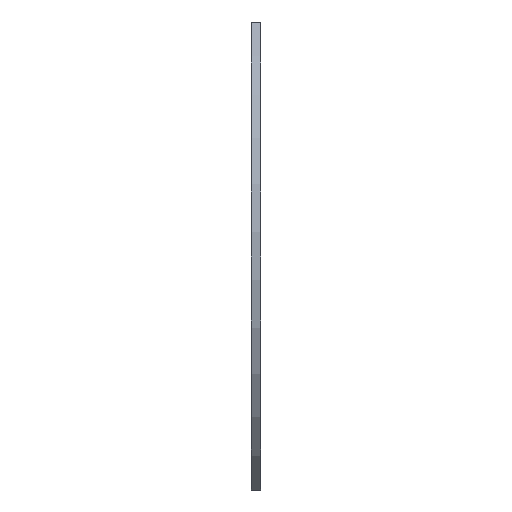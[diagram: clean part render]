
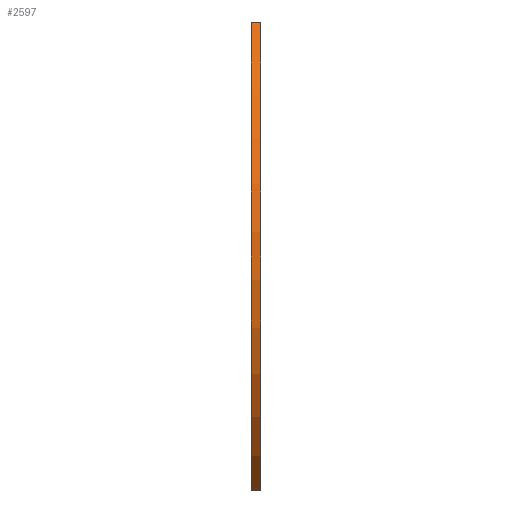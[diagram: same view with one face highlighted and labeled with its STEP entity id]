
A CAD part, left-side view. The second image highlights one B-rep face of the part: STEP entity #2597.
In plain terms, the highlighted cylindrical face has radius 100 mm (diameter 200 mm), a partial arc.
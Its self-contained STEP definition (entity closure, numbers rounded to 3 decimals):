
#208 = VERTEX_POINT('',#209);
#209 = CARTESIAN_POINT('',(-63.804,0.,-77.));
#215 = EDGE_CURVE('',#216,#208,#218,.T.);
#216 = VERTEX_POINT('',#217);
#217 = CARTESIAN_POINT('',(-63.804,0.,77.));
#218 = CIRCLE('',#219,100.);
#219 = AXIS2_PLACEMENT_3D('',#220,#221,#222);
#220 = CARTESIAN_POINT('',(0.,0.,0.));
#221 = DIRECTION('',(0.,-1.,0.));
#222 = DIRECTION('',(1.,0.,0.));
#1260 = VERTEX_POINT('',#1261);
#1261 = CARTESIAN_POINT('',(-63.804,-3.,-77.));
#1267 = EDGE_CURVE('',#1268,#1260,#1270,.T.);
#1268 = VERTEX_POINT('',#1269);
#1269 = CARTESIAN_POINT('',(-63.804,-3.,77.));
#1270 = CIRCLE('',#1271,100.);
#1271 = AXIS2_PLACEMENT_3D('',#1272,#1273,#1274);
#1272 = CARTESIAN_POINT('',(0.,-3.,0.));
#1273 = DIRECTION('',(0.,-1.,0.));
#1274 = DIRECTION('',(1.,0.,0.));
#2567 = EDGE_CURVE('',#208,#1260,#2568,.T.);
#2568 = LINE('',#2569,#2570);
#2569 = CARTESIAN_POINT('',(-63.804,0.,-77.));
#2570 = VECTOR('',#2571,1.);
#2571 = DIRECTION('',(0.,-1.,0.));
#2597 = ADVANCED_FACE('',(#2598),#2609,.T.);
#2598 = FACE_BOUND('',#2599,.F.);
#2599 = EDGE_LOOP('',(#2600,#2606,#2607,#2608));
#2600 = ORIENTED_EDGE('',*,*,#2601,.T.);
#2601 = EDGE_CURVE('',#216,#1268,#2602,.T.);
#2602 = LINE('',#2603,#2604);
#2603 = CARTESIAN_POINT('',(-63.804,0.,77.));
#2604 = VECTOR('',#2605,1.);
#2605 = DIRECTION('',(0.,-1.,0.));
#2606 = ORIENTED_EDGE('',*,*,#1267,.T.);
#2607 = ORIENTED_EDGE('',*,*,#2567,.F.);
#2608 = ORIENTED_EDGE('',*,*,#215,.F.);
#2609 = CYLINDRICAL_SURFACE('',#2610,100.);
#2610 = AXIS2_PLACEMENT_3D('',#2611,#2612,#2613);
#2611 = CARTESIAN_POINT('',(0.,0.,0.));
#2612 = DIRECTION('',(0.,1.,0.));
#2613 = DIRECTION('',(1.,0.,0.));
